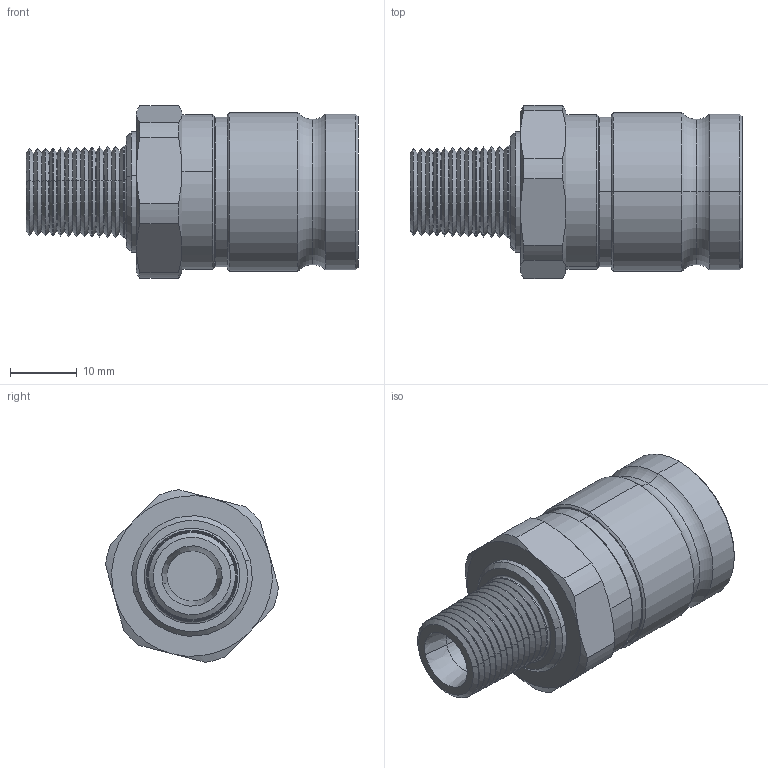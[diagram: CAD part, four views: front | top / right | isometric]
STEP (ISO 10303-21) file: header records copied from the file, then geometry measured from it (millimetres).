
FILE_DESCRIPTION (( 'STEP AP203' ), '1' );
FILE_NAME ('QD3-FTN14.STEP', '2025-01-02T02:05:41', ( 'aksong' ), ( '' ), 'SwSTEP 2.0', 'SolidWorks 2012', '' );
FILE_SCHEMA (( 'CONFIG_CONTROL_DESIGN' ));
Length unit declared in the file: millimetre
Products named in the file (3): female body; QD3-FTN14; NPT1_4, Female 喻闌
Assembly tree (2 placements, depth 2):
  QD3-FTN14
    female body
    NPT1_4, Female 喻闌
Bounding box: 49.6 x 25.87 x 25.8 mm (x, y, z)
Volume: 14363.1 mm3; surface area: 7241.8 mm2
Topology: 2 solids, 2 shells, 214 faces, 436 edges, 242 vertices
Faces by surface type: cone 138, cylinder 36, plane 26, torus 14
Entity records: 5901 total; most frequent: DIRECTION 1094, CARTESIAN_POINT 1001, ORIENTED_EDGE 872, AXIS2_PLACEMENT_3D 463, EDGE_CURVE 436, CIRCLE 244, VERTEX_POINT 242, EDGE_LOOP 232
